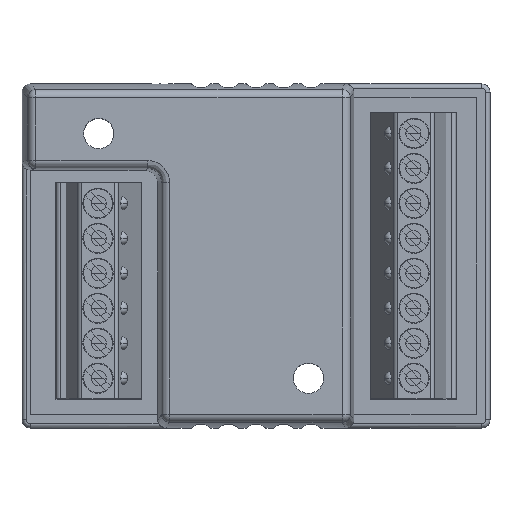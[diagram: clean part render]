
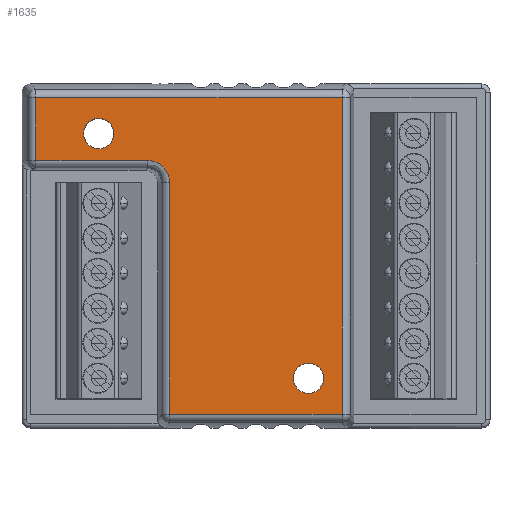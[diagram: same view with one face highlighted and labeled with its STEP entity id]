
A CAD part, top view. The second image highlights one B-rep face of the part: STEP entity #1635.
In plain terms, the highlighted planar face has unit normal (0, 0, 1).
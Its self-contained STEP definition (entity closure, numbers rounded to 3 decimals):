
#306=CIRCLE('',#12570,1.1);
#307=CIRCLE('',#12571,1.1);
#1529=ELLIPSE('',#12569,1.607,1.6);
#1635=ADVANCED_FACE('',(#2901,#2902,#2903),#2399,.T.);
#2399=PLANE('',#12572);
#2901=FACE_BOUND('',#3042,.T.);
#2902=FACE_BOUND('',#3043,.T.);
#2903=FACE_BOUND('',#3044,.T.);
#3042=EDGE_LOOP('',(#4003,#4004,#4005,#4006,#4007,#4008,#4009));
#3043=EDGE_LOOP('',(#4010));
#3044=EDGE_LOOP('',(#4011));
#4003=ORIENTED_EDGE('',*,*,#8624,.T.);
#4004=ORIENTED_EDGE('',*,*,#8625,.T.);
#4005=ORIENTED_EDGE('',*,*,#8626,.T.);
#4006=ORIENTED_EDGE('',*,*,#8627,.T.);
#4007=ORIENTED_EDGE('',*,*,#8628,.T.);
#4008=ORIENTED_EDGE('',*,*,#8629,.T.);
#4009=ORIENTED_EDGE('',*,*,#8630,.T.);
#4010=ORIENTED_EDGE('',*,*,#8631,.T.);
#4011=ORIENTED_EDGE('',*,*,#8632,.T.);
#7523=VERTEX_POINT('',#17914);
#7524=VERTEX_POINT('',#17915);
#7525=VERTEX_POINT('',#17917);
#7526=VERTEX_POINT('',#17919);
#7527=VERTEX_POINT('',#17921);
#7528=VERTEX_POINT('',#17923);
#7529=VERTEX_POINT('',#17925);
#7530=VERTEX_POINT('',#17928);
#7531=VERTEX_POINT('',#17930);
#8624=EDGE_CURVE('',#7523,#7524,#10369,.T.);
#8625=EDGE_CURVE('',#7524,#7525,#10370,.T.);
#8626=EDGE_CURVE('',#7525,#7526,#10371,.T.);
#8627=EDGE_CURVE('',#7526,#7527,#1529,.T.);
#8628=EDGE_CURVE('',#7527,#7528,#10372,.T.);
#8629=EDGE_CURVE('',#7528,#7529,#10373,.T.);
#8630=EDGE_CURVE('',#7529,#7523,#10374,.T.);
#8631=EDGE_CURVE('',#7530,#7530,#306,.T.);
#8632=EDGE_CURVE('',#7531,#7531,#307,.T.);
#10369=LINE('',#17913,#11473);
#10370=LINE('',#17916,#11474);
#10371=LINE('',#17918,#11475);
#10372=LINE('',#17922,#11476);
#10373=LINE('',#17924,#11477);
#10374=LINE('',#17926,#11478);
#11473=VECTOR('',#13971,1.);
#11474=VECTOR('',#13972,1.);
#11475=VECTOR('',#13973,1.);
#11476=VECTOR('',#13976,1.);
#11477=VECTOR('',#13977,1.);
#11478=VECTOR('',#13978,1.);
#12569=AXIS2_PLACEMENT_3D('',#17920,#13974,#13975);
#12570=AXIS2_PLACEMENT_3D('',#17927,#13979,#13980);
#12571=AXIS2_PLACEMENT_3D('',#17929,#13981,#13982);
#12572=AXIS2_PLACEMENT_3D('',#17931,#13983,#13984);
#13971=DIRECTION('',(-1.,0.,0.));
#13972=DIRECTION('',(0.,-1.,0.));
#13973=DIRECTION('',(1.,0.,0.));
#13974=DIRECTION('',(0.,0.,-1.));
#13975=DIRECTION('',(0.929,0.371,0.));
#13976=DIRECTION('',(0.,-1.,0.));
#13977=DIRECTION('',(1.,0.,0.));
#13978=DIRECTION('',(0.,1.,0.));
#13979=DIRECTION('',(0.,0.,-1.));
#13980=DIRECTION('',(-1.,0.,0.));
#13981=DIRECTION('',(0.,0.,-1.));
#13982=DIRECTION('',(-1.,0.,0.));
#13983=DIRECTION('',(0.,0.,1.));
#13984=DIRECTION('',(1.,0.,0.));
#17913=CARTESIAN_POINT('',(0.,11.493,8.));
#17914=CARTESIAN_POINT('',(6.253,11.493,8.));
#17915=CARTESIAN_POINT('',(-15.993,11.493,8.));
#17916=CARTESIAN_POINT('',(-15.993,6.954,8.));
#17917=CARTESIAN_POINT('',(-15.993,6.938,8.));
#17918=CARTESIAN_POINT('',(-7.833,6.938,8.));
#17919=CARTESIAN_POINT('',(-7.884,6.938,8.));
#17920=CARTESIAN_POINT('',(-7.889,5.337,8.));
#17921=CARTESIAN_POINT('',(-6.283,5.342,8.));
#17922=CARTESIAN_POINT('',(-6.283,-11.348,8.));
#17923=CARTESIAN_POINT('',(-6.283,-11.493,8.));
#17924=CARTESIAN_POINT('',(0.,-11.493,8.));
#17925=CARTESIAN_POINT('',(6.253,-11.493,8.));
#17926=CARTESIAN_POINT('',(6.253,11.348,8.));
#17927=CARTESIAN_POINT('',(3.81,-8.89,8.));
#17928=CARTESIAN_POINT('',(2.71,-8.89,8.));
#17929=CARTESIAN_POINT('',(-11.43,8.89,8.));
#17930=CARTESIAN_POINT('',(-12.53,8.89,8.));
#17931=CARTESIAN_POINT('',(0.,0.,8.));
